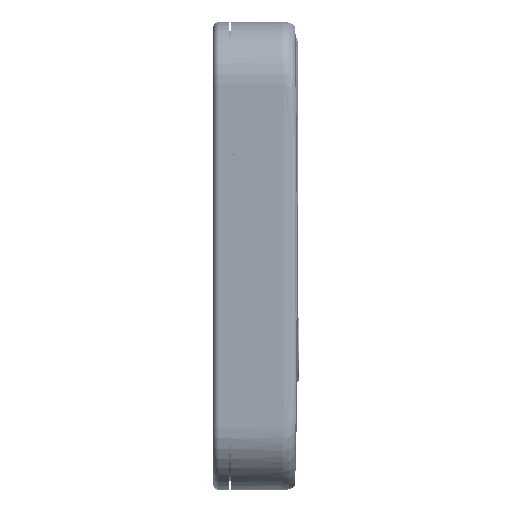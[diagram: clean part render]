
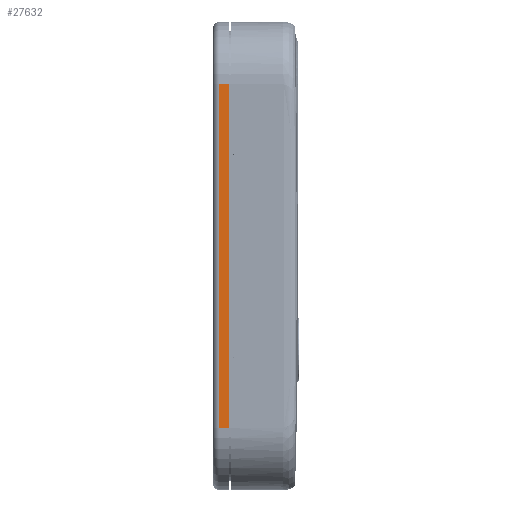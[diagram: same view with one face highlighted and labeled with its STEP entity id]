
A CAD part, left-side view. The second image highlights one B-rep face of the part: STEP entity #27632.
In plain terms, the highlighted planar face has unit normal (-1, 0, 0).
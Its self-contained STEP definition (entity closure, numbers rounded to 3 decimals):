
#27632 = ADVANCED_FACE('',(#27633),#27647,.T.);
#27633 = FACE_BOUND('',#27634,.T.);
#27634 = EDGE_LOOP('',(#27635,#27670,#27698,#27726));
#27635 = ORIENTED_EDGE('',*,*,#27636,.T.);
#27636 = EDGE_CURVE('',#27637,#27639,#27641,.T.);
#27637 = VERTEX_POINT('',#27638);
#27638 = CARTESIAN_POINT('',(-54.,0.4,-55.));
#27639 = VERTEX_POINT('',#27640);
#27640 = CARTESIAN_POINT('',(-54.,-2.9,-55.));
#27641 = SURFACE_CURVE('',#27642,(#27646,#27658),.PCURVE_S1.);
#27642 = LINE('',#27643,#27644);
#27643 = CARTESIAN_POINT('',(-54.,2.4,-55.));
#27644 = VECTOR('',#27645,1.);
#27645 = DIRECTION('',(0.,-1.,0.));
#27646 = PCURVE('',#27647,#27652);
#27647 = PLANE('',#27648);
#27648 = AXIS2_PLACEMENT_3D('',#27649,#27650,#27651);
#27649 = CARTESIAN_POINT('',(-54.,2.4,-55.));
#27650 = DIRECTION('',(-1.,0.,0.));
#27651 = DIRECTION('',(0.,0.,1.));
#27652 = DEFINITIONAL_REPRESENTATION('',(#27653),#27657);
#27653 = LINE('',#27654,#27655);
#27654 = CARTESIAN_POINT('',(0.,0.));
#27655 = VECTOR('',#27656,1.);
#27656 = DIRECTION('',(0.,-1.));
#27657 = ( GEOMETRIC_REPRESENTATION_CONTEXT(2) 
PARAMETRIC_REPRESENTATION_CONTEXT() REPRESENTATION_CONTEXT('2D SPACE',''
  ) );
#27658 = PCURVE('',#27659,#27664);
#27659 = CYLINDRICAL_SURFACE('',#27660,20.);
#27660 = AXIS2_PLACEMENT_3D('',#27661,#27662,#27663);
#27661 = CARTESIAN_POINT('',(-34.,2.4,-55.));
#27662 = DIRECTION('',(0.,1.,0.));
#27663 = DIRECTION('',(1.,0.,0.));
#27664 = DEFINITIONAL_REPRESENTATION('',(#27665),#27669);
#27665 = LINE('',#27666,#27667);
#27666 = CARTESIAN_POINT('',(3.142,0.));
#27667 = VECTOR('',#27668,1.);
#27668 = DIRECTION('',(-0.,-1.));
#27669 = ( GEOMETRIC_REPRESENTATION_CONTEXT(2) 
PARAMETRIC_REPRESENTATION_CONTEXT() REPRESENTATION_CONTEXT('2D SPACE',''
  ) );
#27670 = ORIENTED_EDGE('',*,*,#27671,.T.);
#27671 = EDGE_CURVE('',#27639,#27672,#27674,.T.);
#27672 = VERTEX_POINT('',#27673);
#27673 = CARTESIAN_POINT('',(-54.,-2.9,55.));
#27674 = SURFACE_CURVE('',#27675,(#27679,#27686),.PCURVE_S1.);
#27675 = LINE('',#27676,#27677);
#27676 = CARTESIAN_POINT('',(-54.,-2.9,0.));
#27677 = VECTOR('',#27678,1.);
#27678 = DIRECTION('',(0.,0.,1.));
#27679 = PCURVE('',#27647,#27680);
#27680 = DEFINITIONAL_REPRESENTATION('',(#27681),#27685);
#27681 = LINE('',#27682,#27683);
#27682 = CARTESIAN_POINT('',(55.,-5.3));
#27683 = VECTOR('',#27684,1.);
#27684 = DIRECTION('',(1.,0.));
#27685 = ( GEOMETRIC_REPRESENTATION_CONTEXT(2) 
PARAMETRIC_REPRESENTATION_CONTEXT() REPRESENTATION_CONTEXT('2D SPACE',''
  ) );
#27686 = PCURVE('',#27687,#27692);
#27687 = PLANE('',#27688);
#27688 = AXIS2_PLACEMENT_3D('',#27689,#27690,#27691);
#27689 = CARTESIAN_POINT('',(0.,-2.9,0.));
#27690 = DIRECTION('',(0.,-1.,0.));
#27691 = DIRECTION('',(1.,0.,0.));
#27692 = DEFINITIONAL_REPRESENTATION('',(#27693),#27697);
#27693 = LINE('',#27694,#27695);
#27694 = CARTESIAN_POINT('',(-54.,0.));
#27695 = VECTOR('',#27696,1.);
#27696 = DIRECTION('',(0.,1.));
#27697 = ( GEOMETRIC_REPRESENTATION_CONTEXT(2) 
PARAMETRIC_REPRESENTATION_CONTEXT() REPRESENTATION_CONTEXT('2D SPACE',''
  ) );
#27698 = ORIENTED_EDGE('',*,*,#27699,.F.);
#27699 = EDGE_CURVE('',#27700,#27672,#27702,.T.);
#27700 = VERTEX_POINT('',#27701);
#27701 = CARTESIAN_POINT('',(-54.,0.4,55.));
#27702 = SURFACE_CURVE('',#27703,(#27707,#27714),.PCURVE_S1.);
#27703 = LINE('',#27704,#27705);
#27704 = CARTESIAN_POINT('',(-54.,2.4,55.));
#27705 = VECTOR('',#27706,1.);
#27706 = DIRECTION('',(0.,-1.,0.));
#27707 = PCURVE('',#27647,#27708);
#27708 = DEFINITIONAL_REPRESENTATION('',(#27709),#27713);
#27709 = LINE('',#27710,#27711);
#27710 = CARTESIAN_POINT('',(110.,0.));
#27711 = VECTOR('',#27712,1.);
#27712 = DIRECTION('',(0.,-1.));
#27713 = ( GEOMETRIC_REPRESENTATION_CONTEXT(2) 
PARAMETRIC_REPRESENTATION_CONTEXT() REPRESENTATION_CONTEXT('2D SPACE',''
  ) );
#27714 = PCURVE('',#27715,#27720);
#27715 = CYLINDRICAL_SURFACE('',#27716,20.);
#27716 = AXIS2_PLACEMENT_3D('',#27717,#27718,#27719);
#27717 = CARTESIAN_POINT('',(-34.,2.4,55.));
#27718 = DIRECTION('',(0.,1.,0.));
#27719 = DIRECTION('',(1.,0.,0.));
#27720 = DEFINITIONAL_REPRESENTATION('',(#27721),#27725);
#27721 = LINE('',#27722,#27723);
#27722 = CARTESIAN_POINT('',(3.142,0.));
#27723 = VECTOR('',#27724,1.);
#27724 = DIRECTION('',(-0.,-1.));
#27725 = ( GEOMETRIC_REPRESENTATION_CONTEXT(2) 
PARAMETRIC_REPRESENTATION_CONTEXT() REPRESENTATION_CONTEXT('2D SPACE',''
  ) );
#27726 = ORIENTED_EDGE('',*,*,#27727,.F.);
#27727 = EDGE_CURVE('',#27637,#27700,#27728,.T.);
#27728 = SURFACE_CURVE('',#27729,(#27733,#27740),.PCURVE_S1.);
#27729 = LINE('',#27730,#27731);
#27730 = CARTESIAN_POINT('',(-54.,0.4,-55.));
#27731 = VECTOR('',#27732,1.);
#27732 = DIRECTION('',(0.,0.,1.));
#27733 = PCURVE('',#27647,#27734);
#27734 = DEFINITIONAL_REPRESENTATION('',(#27735),#27739);
#27735 = LINE('',#27736,#27737);
#27736 = CARTESIAN_POINT('',(0.,-2.));
#27737 = VECTOR('',#27738,1.);
#27738 = DIRECTION('',(1.,0.));
#27739 = ( GEOMETRIC_REPRESENTATION_CONTEXT(2) 
PARAMETRIC_REPRESENTATION_CONTEXT() REPRESENTATION_CONTEXT('2D SPACE',''
  ) );
#27740 = PCURVE('',#27741,#27746);
#27741 = CYLINDRICAL_SURFACE('',#27742,2.);
#27742 = AXIS2_PLACEMENT_3D('',#27743,#27744,#27745);
#27743 = CARTESIAN_POINT('',(-52.,0.4,-55.));
#27744 = DIRECTION('',(0.,0.,1.));
#27745 = DIRECTION('',(-1.,0.,0.));
#27746 = DEFINITIONAL_REPRESENTATION('',(#27747),#27751);
#27747 = LINE('',#27748,#27749);
#27748 = CARTESIAN_POINT('',(6.283,0.));
#27749 = VECTOR('',#27750,1.);
#27750 = DIRECTION('',(-0.,1.));
#27751 = ( GEOMETRIC_REPRESENTATION_CONTEXT(2) 
PARAMETRIC_REPRESENTATION_CONTEXT() REPRESENTATION_CONTEXT('2D SPACE',''
  ) );
